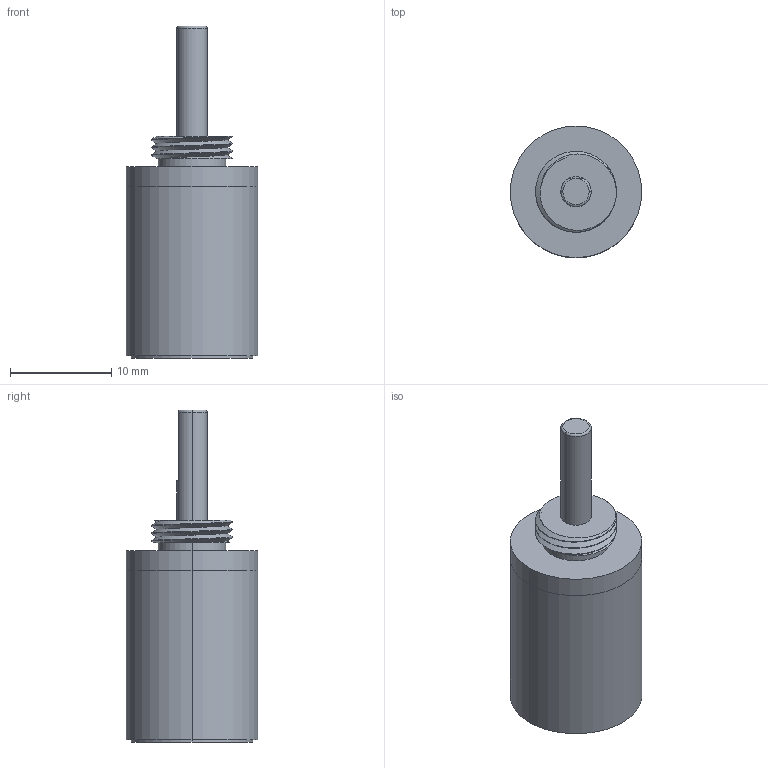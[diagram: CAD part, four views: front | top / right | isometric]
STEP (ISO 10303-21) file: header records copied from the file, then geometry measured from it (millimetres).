
FILE_DESCRIPTION (( 'STEP AP203' ), '1' );
FILE_NAME ('IG-13(II)-3stage.STEP', '2023-03-27T02:25:52', ( '' ), ( '' ), 'SwSTEP 2.0', 'SolidWorks 2019', '' );
FILE_SCHEMA (( 'CONFIG_CONTROL_DESIGN' ));
Length unit declared in the file: millimetre
Products named in the file (1): IG-13(II)-3stage
Bounding box: 13 x 13 x 32.8 mm (x, y, z)
Volume: 2922.5 mm3; surface area: 1663.7 mm2
Topology: 2 solids, 2 shells, 40 faces, 84 edges, 55 vertices
Faces by surface type: cylinder 22, plane 13, torus 3, bspline 2
Entity records: 1645 total; most frequent: CARTESIAN_POINT 724, DIRECTION 184, ORIENTED_EDGE 168, EDGE_CURVE 84, AXIS2_PLACEMENT_3D 80, VERTEX_POINT 55, EDGE_LOOP 47, CIRCLE 41
